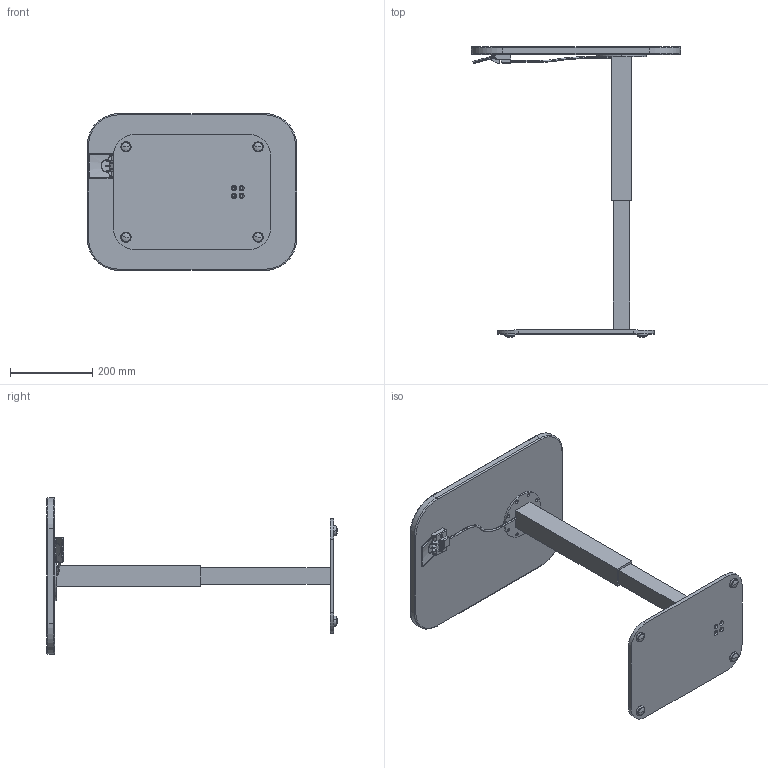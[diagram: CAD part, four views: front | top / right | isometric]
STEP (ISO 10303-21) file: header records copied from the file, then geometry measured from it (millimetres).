
FILE_DESCRIPTION (( 'STEP AP203' ), '1' );
FILE_NAME ('15x20 Rectangle Long Mount-HT.ADJ.-Highest PositionSTEP.STEP', '2024-10-30T12:34:00', ( '' ), ( '' ), 'SwSTEP 2.0', 'SolidWorks 2021', '' );
FILE_SCHEMA (( 'CONFIG_CONTROL_DESIGN' ));
Length unit declared in the file: inch
Products named in the file (13): Paddle Shift Cable; Paddle; TT-15x20; 11x15_Rectangle_C_Baseplate; ALG-SS; Proto laptop STAND_Fully Extended; Paddle Control Base; Paddle Control; TT-15x20-Lam; TT-15x20-Core; 15x20 Rectangle Long Mount-HT.ADJ.-Highest PositionSTEP; TT-15x20-EB; 11x15_Rectangle_C_Baseplate Assy
Assembly tree (15 placements, depth 3):
  15x20 Rectangle Long Mount-HT.ADJ.-Highest PositionSTEP
    11x15_Rectangle_C_Baseplate Assy
      11x15_Rectangle_C_Baseplate
      ALG-SS  x4
    Proto laptop STAND_Fully Extended
    Paddle Control
      Paddle Control Base
      Paddle
    Paddle Shift Cable
    TT-15x20
      TT-15x20-Core
      TT-15x20-Lam
      TT-15x20-EB
Bounding box: 508 x 705.9 x 381 mm (x, y, z)
Volume: 5990149.2 mm3; surface area: 1281661.3 mm2
Topology: 18 solids, 18 shells, 538 faces, 1236 edges, 723 vertices
Faces by surface type: cylinder 189, plane 159, cone 128, torus 30, bspline 16, sphere 16
Entity records: 13190 total; most frequent: CARTESIAN_POINT 2669, DIRECTION 1987, ORIENTED_EDGE 1822, EDGE_CURVE 911, AXIS2_PLACEMENT_3D 727, VERTEX_POINT 558, VECTOR 533, LINE 533
